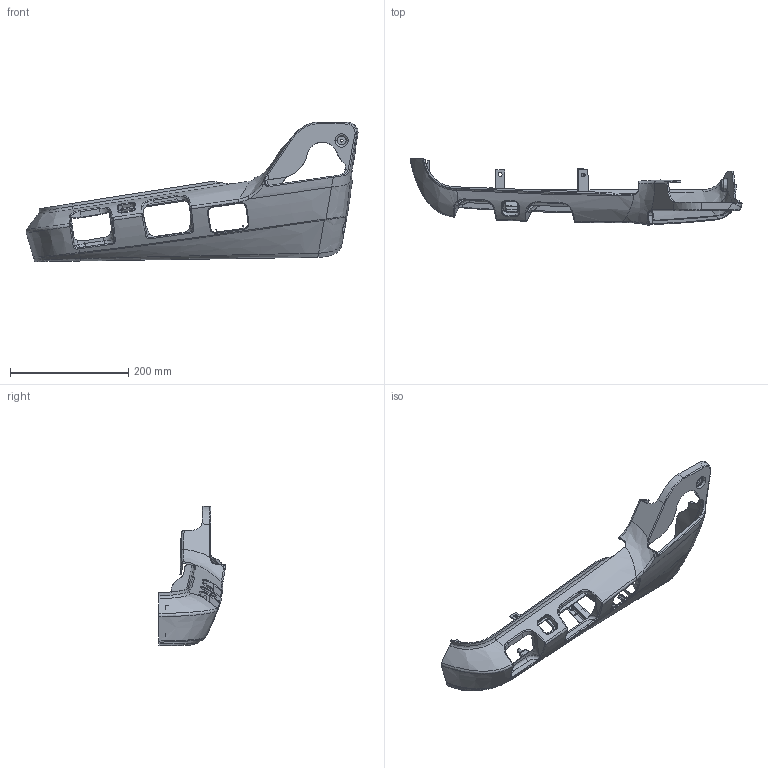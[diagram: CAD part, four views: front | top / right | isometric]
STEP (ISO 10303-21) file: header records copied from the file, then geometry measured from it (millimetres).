
FILE_DESCRIPTION(('CATIA V5 STEP Exchange','CAx-IF Rec.Pracs.--- Model Styling and Organization---1.4--- 2014-01-23'),'2;1');
FILE_NAME('C:\Users\luhaitao\Desktop\塑料件平台项目\塑料件样件清单\10.stp','2025-04-28T01:30:59+00:00',('none'),('none'),'CATIA Version 5-6 Release 2017','CATIA V5 STEP AP214','none');
FILE_SCHEMA(('AUTOMOTIVE_DESIGN { 1 0 10303 214 1 1 1 1 }'));
Products named in the file (1): 10
Bounding box: 561.99 x 113.31 x 235.94 mm (x, y, z)
Volume: 298193.5 mm3; surface area: 234299.9 mm2
Topology: 1 solids, 2 shells, 934 faces, 2916 edges, 1958 vertices
Faces by surface type: bspline 473, plane 252, cylinder 141, sphere 49, extrusion 11, torus 8
Entity records: 88944 total; most frequent: CARTESIAN_POINT 68273, ORIENTED_EDGE 5762, EDGE_CURVE 2881, B_SPLINE_CURVE_WITH_KNOTS 2021, VERTEX_POINT 1958, DIRECTION 1501, EDGE_LOOP 967, ADVANCED_FACE 934
